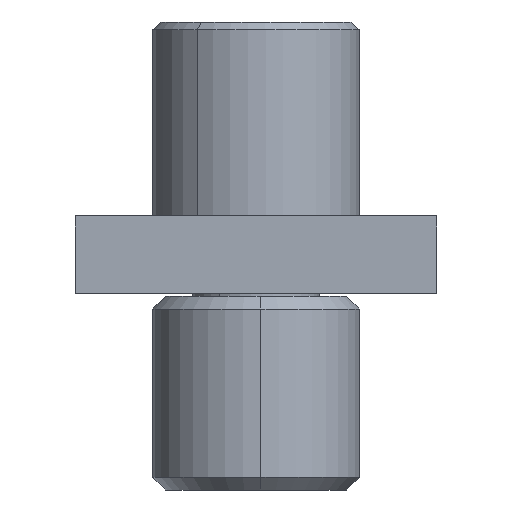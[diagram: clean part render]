
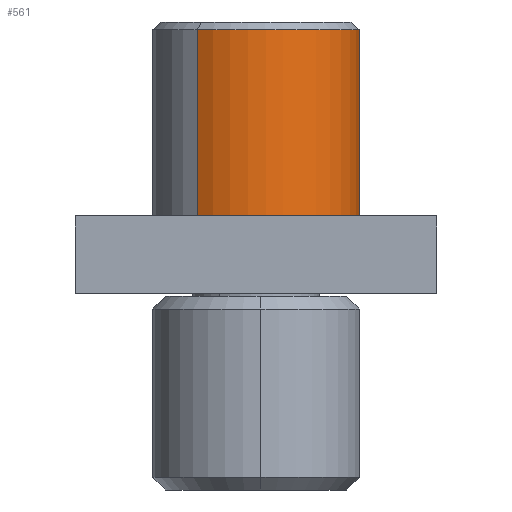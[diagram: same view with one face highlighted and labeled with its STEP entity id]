
A CAD part, left-side view. The second image highlights one B-rep face of the part: STEP entity #561.
In plain terms, the highlighted cylindrical face has radius 4 mm (diameter 8 mm), a partial arc.
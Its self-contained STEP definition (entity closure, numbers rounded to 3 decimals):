
#39 = DIRECTION ( 'NONE',  ( 0., 0., -1. ) ) ;
#66 = CARTESIAN_POINT ( 'NONE',  ( 0., 4., -0.3 ) ) ;
#80 = CARTESIAN_POINT ( 'NONE',  ( 0., -4., -18.1 ) ) ;
#85 = CIRCLE ( 'NONE', #593, 4. ) ;
#106 = CARTESIAN_POINT ( 'NONE',  ( 0., 0., -7.5 ) ) ;
#143 = ORIENTED_EDGE ( 'NONE', *, *, #1241, .F. ) ;
#169 = AXIS2_PLACEMENT_3D ( 'NONE', #1287, #1071, #1066 ) ;
#375 = ORIENTED_EDGE ( 'NONE', *, *, #562, .T. ) ;
#400 = DIRECTION ( 'NONE',  ( 0., 0., -1. ) ) ;
#401 = CARTESIAN_POINT ( 'NONE',  ( 0., 4., -7.5 ) ) ;
#438 = LINE ( 'NONE', #80, #658 ) ;
#452 = DIRECTION ( 'NONE',  ( 0., 0., -1. ) ) ;
#472 = VERTEX_POINT ( 'NONE', #874 ) ;
#561 = ADVANCED_FACE ( 'NONE', ( #633 ), #790, .T. ) ;
#562 = EDGE_CURVE ( 'NONE', #890, #767, #854, .T. ) ;
#593 = AXIS2_PLACEMENT_3D ( 'NONE', #106, #39, #740 ) ;
#633 = FACE_OUTER_BOUND ( 'NONE', #1165, .T. ) ;
#658 = VECTOR ( 'NONE', #400, 1000. ) ;
#720 = CIRCLE ( 'NONE', #928, 4. ) ;
#740 = DIRECTION ( 'NONE',  ( 0., 1., 0. ) ) ;
#767 = VERTEX_POINT ( 'NONE', #401 ) ;
#790 = CYLINDRICAL_SURFACE ( 'NONE', #169, 4. ) ;
#818 = ORIENTED_EDGE ( 'NONE', *, *, #1084, .F. ) ;
#837 = ORIENTED_EDGE ( 'NONE', *, *, #1179, .T. ) ;
#854 = LINE ( 'NONE', #1261, #1089 ) ;
#874 = CARTESIAN_POINT ( 'NONE',  ( 0., -4., -7.5 ) ) ;
#890 = VERTEX_POINT ( 'NONE', #66 ) ;
#928 = AXIS2_PLACEMENT_3D ( 'NONE', #1310, #1294, #1211 ) ;
#1024 = CARTESIAN_POINT ( 'NONE',  ( 0., -4., -0.3 ) ) ;
#1066 = DIRECTION ( 'NONE',  ( 0., 1., 0. ) ) ;
#1071 = DIRECTION ( 'NONE',  ( 0., 0., -1. ) ) ;
#1077 = VERTEX_POINT ( 'NONE', #1024 ) ;
#1084 = EDGE_CURVE ( 'NONE', #472, #767, #85, .T. ) ;
#1089 = VECTOR ( 'NONE', #452, 1000. ) ;
#1165 = EDGE_LOOP ( 'NONE', ( #143, #837, #375, #818 ) ) ;
#1179 = EDGE_CURVE ( 'NONE', #1077, #890, #720, .T. ) ;
#1211 = DIRECTION ( 'NONE',  ( 0., 1., 0. ) ) ;
#1241 = EDGE_CURVE ( 'NONE', #1077, #472, #438, .T. ) ;
#1261 = CARTESIAN_POINT ( 'NONE',  ( 0., 4., -18.1 ) ) ;
#1287 = CARTESIAN_POINT ( 'NONE',  ( 0., 0., -18.1 ) ) ;
#1294 = DIRECTION ( 'NONE',  ( 0., 0., -1. ) ) ;
#1310 = CARTESIAN_POINT ( 'NONE',  ( 0., 0., -0.3 ) ) ;
